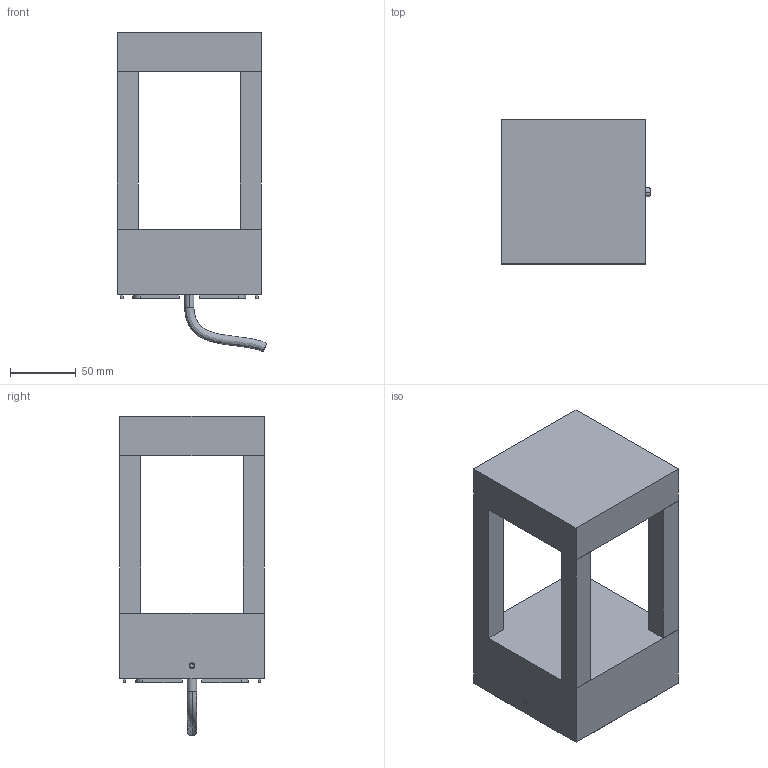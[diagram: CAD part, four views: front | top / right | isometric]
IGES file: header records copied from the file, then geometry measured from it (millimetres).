
Start section: SolidWorks IGES file using analytic representation for surfaces
Global section: file name: C:\Users\anna.bielnik\Desktop\corto\NL2500025450.IGS; native system: SolidWorks 2024; preprocessor: SolidWorks 2024; author: anna.bielnik; date: 260121.132633; units: millimetre
Bounding box: 114.19 x 110 x 243.41 mm (x, y, z)
Surface area: 170429.2 mm2 (no closed solid volume)
Topology: 0 solids, 0 shells, 318 faces, 2710 edges, 2698 vertices
Faces by surface type: bspline 204, revolution 114
